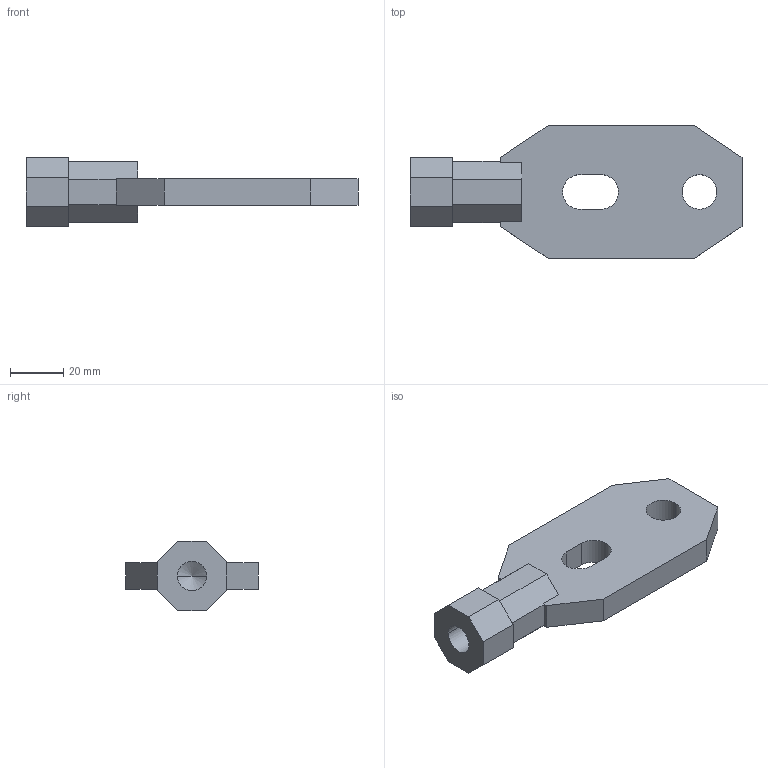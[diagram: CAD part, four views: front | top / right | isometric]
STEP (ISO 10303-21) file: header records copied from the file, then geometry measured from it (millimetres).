
FILE_DESCRIPTION((''),'2;1');
FILE_NAME('U8_SHORT_LO_REAR_CONDUCTOR_ASSY_ASM','2018-06-04T',('HHI'),(''),'PRO/ENGINEER BY PARAMETRIC TECHNOLOGY CORPORATION, 2012453','PRO/ENGINEER BY PARAMETRIC TECHNOLOGY CORPORATION, 2012453','');
FILE_SCHEMA(('CONFIG_CONTROL_DESIGN'));
Length unit declared in the file: millimetre
Products named in the file (3): U8_SHORT_LOAD_REAR_CONDUCTO_AF0; U8_REAR_BUSBAR; U8_SHORT_LO_REAR_CONDUCTOR_ASSY_ASM
Assembly tree (2 placements, depth 2):
  U8_SHORT_LO_REAR_CONDUCTOR_ASSY_ASM
    U8_SHORT_LOAD_REAR_CONDUCTO_AF0
    U8_REAR_BUSBAR
Bounding box: 125 x 50 x 26 mm (x, y, z)
Volume: 53339.9 mm3; surface area: 16574.1 mm2
Topology: 2 solids, 2 shells, 137 faces, 373 edges, 247 vertices
Faces by surface type: plane 129, cylinder 6, cone 2
Entity records: 4325 total; most frequent: CARTESIAN_POINT 760, ORIENTED_EDGE 742, DIRECTION 667, EDGE_CURVE 371, VECTOR 359, LINE 359, VERTEX_POINT 247, AXIS2_PLACEMENT_3D 154
